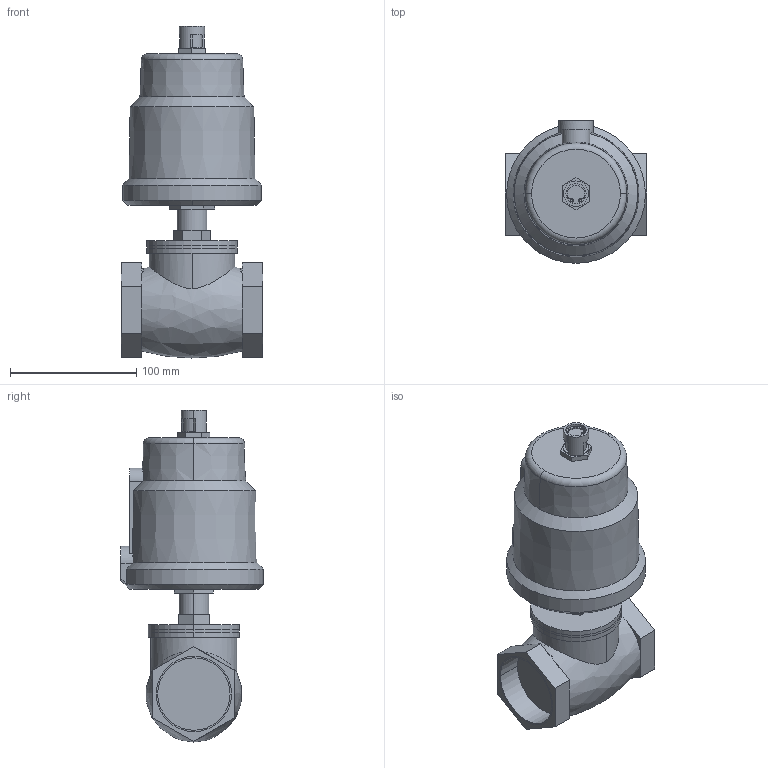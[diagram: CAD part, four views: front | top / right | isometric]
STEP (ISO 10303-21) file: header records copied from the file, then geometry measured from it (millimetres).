
FILE_DESCRIPTION((''),'2;1');
FILE_NAME('SB_KLAPAN_ASM','2024-06-08T',('AMD'),(''),'PRO/ENGINEER BY PARAMETRIC TECHNOLOGY CORPORATION, 2008020','PRO/ENGINEER BY PARAMETRIC TECHNOLOGY CORPORATION, 2008020','');
FILE_SCHEMA(('CONFIG_CONTROL_DESIGN'));
Length unit declared in the file: millimetre
Products named in the file (5): KLAPAN; UPLOTNENIE; KOLCO_16_GOST13943; KOLCO_95_GOST13943; SB_KLAPAN_ASM
Assembly tree (4 placements, depth 2):
  SB_KLAPAN_ASM
    KLAPAN
    UPLOTNENIE
    KOLCO_16_GOST13943
    KOLCO_95_GOST13943
Bounding box: 112 x 113 x 263 mm (x, y, z)
Volume: 1279455.9 mm3; surface area: 122295.9 mm2
Topology: 4 solids, 8 shells, 168 faces, 419 edges, 276 vertices
Faces by surface type: plane 86, cylinder 69, cone 7, torus 4, bspline 2
Entity records: 5465 total; most frequent: CARTESIAN_POINT 1194, DIRECTION 922, ORIENTED_EDGE 822, EDGE_CURVE 419, AXIS2_PLACEMENT_3D 355, VERTEX_POINT 276, VECTOR 212, LINE 212
